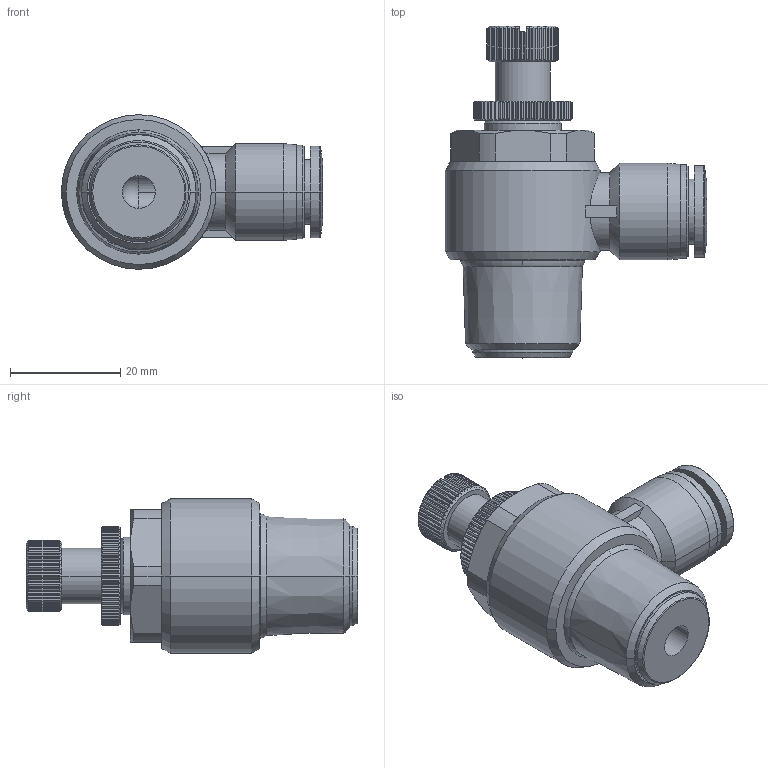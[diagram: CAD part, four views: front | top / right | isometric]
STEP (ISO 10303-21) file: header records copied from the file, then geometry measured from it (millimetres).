
FILE_DESCRIPTION (( 'STEP AP203' ), '1' );
FILE_NAME ('SCL10-04.STEP', '2020-05-12T15:37:48', ( '' ), ( '' ), 'SwSTEP 2.0', 'SolidWorks 2019', '' );
FILE_SCHEMA (( 'CONFIG_CONTROL_DESIGN' ));
Length unit declared in the file: millimetre
Products named in the file (1): SCL10-04
Bounding box: 47.3 x 60.1 x 28 mm (x, y, z)
Volume: 23647.9 mm3; surface area: 8140.4 mm2
Topology: 1 solids, 1 shells, 582 faces, 1413 edges, 844 vertices
Faces by surface type: plane 261, cone 162, cylinder 150, torus 6, bspline 2, sphere 1
Entity records: 16562 total; most frequent: CARTESIAN_POINT 3991, ORIENTED_EDGE 2824, DIRECTION 2595, EDGE_CURVE 1412, AXIS2_PLACEMENT_3D 1076, VERTEX_POINT 844, EDGE_LOOP 596, FACE_OUTER_BOUND 582
